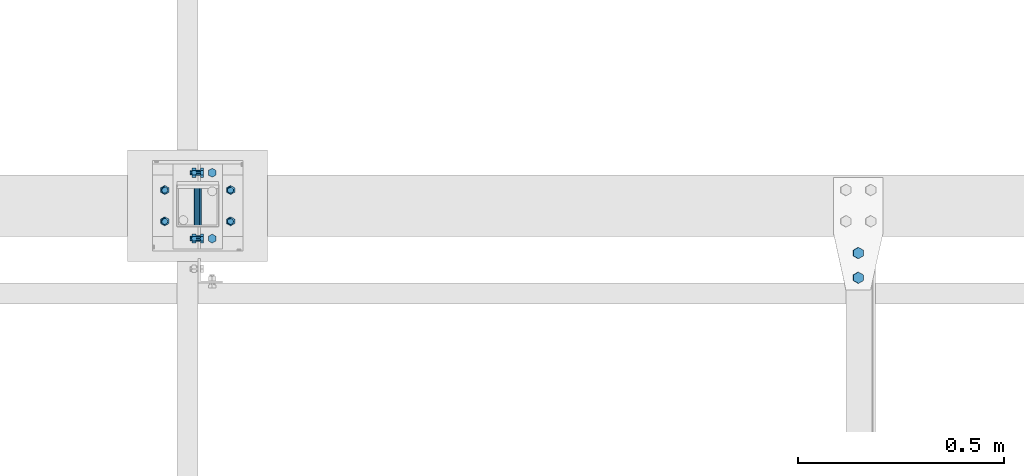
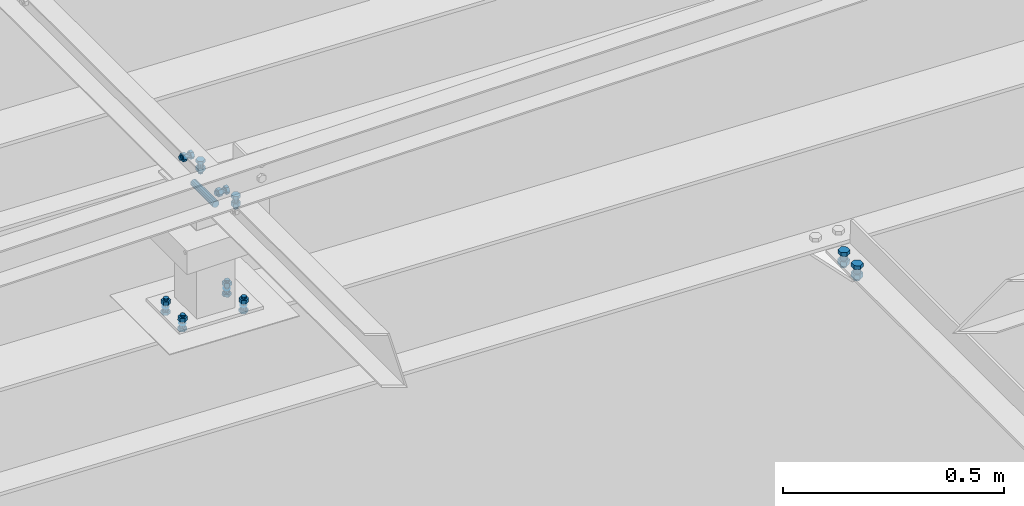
# One storey, part 213 of 3134: 6 mechanical fasteners, 4 elements without a shape of their own.
"""IFC2X3 building model written with IfcOpenShell, lengths in millimetres."""

from ifc_helpers import new_model, si_unit, frame, origin_with_axes, place, context, subcontext, project, spatial, faceted_brep, source, transform, mapped, material, type_object, element, aggregate, save


model = new_model("IFC2X3")

# Units and contexts
model_context = context("Model", 3, precision=1e-05, world=origin_with_axes())
body_context = subcontext(model_context, "Body", "Model", "MODEL_VIEW")
ifc_project = project(units=[si_unit("LENGTHUNIT", "METRE", prefix="MILLI"), si_unit("AREAUNIT", "SQUARE_METRE"), si_unit("VOLUMEUNIT", "CUBIC_METRE"), si_unit("MASSUNIT", "GRAM", prefix="KILO"), si_unit("TIMEUNIT", "SECOND"), si_unit("PLANEANGLEUNIT", "RADIAN"), si_unit("SOLIDANGLEUNIT", "STERADIAN"), si_unit("THERMODYNAMICTEMPERATUREUNIT", "DEGREE_CELSIUS"), si_unit("LUMINOUSINTENSITYUNIT", "LUMEN")], contexts=[model_context])

# Site, building, storey
site_placement = place(None, origin_with_axes())
site = spatial("IfcSite", under=ifc_project, at=site_placement, CompositionType="ELEMENT")
building_placement = place(site_placement, origin_with_axes())
building = spatial("IfcBuilding", under=site, at=building_placement, Name="Undefined", CompositionType="ELEMENT")
storey_placement = place(building_placement, origin_with_axes())
storey = spatial("IfcBuildingStorey", under=building, at=storey_placement, Name="Undefined", CompositionType="ELEMENT", Elevation=0.0)

# Assembly, mechanical fastener
assembly_1_placement = place(storey_placement, origin_with_axes())
assembly_1 = element("IfcElementAssembly", 1, at=assembly_1_placement, inside=storey, AssemblyPlace="NOTDEFINED", PredefinedType="RIGID_FRAME")
ifc_material = material(Name="8.8")
mechanical_fastener_type = type_object("IfcMechanicalFastenerType", Name="Bolt assembly")
shared_shape_1 = source(origin_with_axes(), body_context, "Body", "Brep", [
    faceted_brep([(10.9696551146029, -14.0, 0.0), (5.48482755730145, -14.0, 9.5), (-5.48482755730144, -14.0, 9.5), (-10.9696551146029, -14.0, 1.34339530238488e-15), (-5.48482755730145, -14.0, -9.5), (5.48482755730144, -14.0, -9.50000000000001), (5.48482755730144, -6.0, -9.50000000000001), (-5.48482755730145, -6.0, -9.5), (-10.9696551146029, -6.0, 1.34339530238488e-15), (-5.48482755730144, -6.0, 9.5), (5.48482755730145, -6.0, 9.5), (10.9696551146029, -6.0, 0.0), (6.0, -6.0, 0.0), (5.19615242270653, -6.0, 3.00000000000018), (2.99999999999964, -6.0, 5.19615242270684), (-6.21801588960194e-13, -6.0, 6.0), (-3.00000000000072, -6.0, 5.19615242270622), (-5.19615242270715, -6.0, 2.9999999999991), (-6.0, -6.0, -1.24360317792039e-12), (-5.19615242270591, -6.0, -3.00000000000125), (-2.99999999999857, -6.0, -5.19615242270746), (1.85874342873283e-12, -6.0, -6.0), (3.00000000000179, -6.0, -5.1961524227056), (5.19615242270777, -6.0, -2.99999999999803), (5.19615242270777, 24.0, -2.99999999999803), (3.00000000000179, 24.0, -5.1961524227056), (1.85874342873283e-12, 24.0, -6.0), (-2.99999999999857, 24.0, -5.19615242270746), (-5.19615242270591, 24.0, -3.00000000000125), (-6.0, 24.0, -1.24360317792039e-12), (-5.19615242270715, 24.0, 2.9999999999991), (-3.00000000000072, 24.0, 5.19615242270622), (-6.21801588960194e-13, 24.0, 6.0), (2.99999999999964, 24.0, 5.19615242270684), (5.19615242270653, 24.0, 3.00000000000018), (6.0, 24.0, 0.0), (10.9696551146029, 6.00000000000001, 0.0), (5.48482755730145, 6.00000000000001, 9.5), (-5.48482755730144, 6.00000000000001, 9.5), (-10.9696551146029, 6.00000000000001, 1.34339530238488e-15), (-5.48482755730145, 6.00000000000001, -9.5), (5.48482755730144, 6.00000000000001, -9.50000000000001), (5.48482755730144, 16.0, -9.50000000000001), (-5.48482755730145, 16.0, -9.5), (-10.9696551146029, 16.0, 1.34339530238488e-15), (-5.48482755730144, 16.0, 9.5), (5.48482755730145, 16.0, 9.5), (10.9696551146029, 16.0, 0.0)], [[[0, 1, 2, 3, 4, 5]], [[6, 7, 8, 9, 10, 11]], [[0, 11, 10, 1]], [[1, 10, 9, 2]], [[2, 9, 8, 3]], [[3, 8, 7, 4]], [[4, 7, 6, 5]], [[5, 6, 11, 0]], [[12, 13, 14, 15, 16, 17, 18, 19, 20, 21, 22, 23]], [[24, 25, 26, 27, 28, 29, 30, 31, 32, 33, 34, 35]], [[12, 35, 34, 13]], [[13, 34, 33, 14]], [[14, 33, 32, 15]], [[15, 32, 31, 16]], [[16, 31, 30, 17]], [[17, 30, 29, 18]], [[18, 29, 28, 19]], [[19, 28, 27, 20]], [[20, 27, 26, 21]], [[21, 26, 25, 22]], [[22, 25, 24, 23]], [[23, 24, 35, 12]], [[36, 37, 38, 39, 40, 41]], [[42, 43, 44, 45, 46, 47]], [[36, 47, 46, 37]], [[37, 46, 45, 38]], [[38, 45, 44, 39]], [[39, 44, 43, 40]], [[40, 43, 42, 41]], [[41, 42, 47, 36]]]),
    faceted_brep([(7.0, -5.9, 0.0), (6.06217782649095, -5.9, 3.50000000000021), (3.49999999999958, -5.9, 6.06217782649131), (-7.25435187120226e-13, -5.9, 7.0), (-3.50000000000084, -5.9, 6.06217782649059), (-6.06217782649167, -5.9, 3.49999999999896), (-7.0, -5.9, -1.45087037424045e-12), (-6.06217782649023, -5.9, -3.50000000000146), (-3.49999999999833, -5.9, -6.06217782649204), (2.1685340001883e-12, -5.9, -7.0), (3.50000000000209, -5.9, -6.06217782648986), (6.0621778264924, -5.9, -3.4999999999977), (6.0621778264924, 0.0999999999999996, -3.4999999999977), (3.50000000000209, 0.0999999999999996, -6.06217782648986), (2.1685340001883e-12, 0.0999999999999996, -7.0), (-3.49999999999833, 0.0999999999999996, -6.06217782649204), (-6.06217782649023, 0.0999999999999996, -3.50000000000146), (-7.0, 0.0999999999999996, -1.45087037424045e-12), (-6.06217782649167, 0.0999999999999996, 3.49999999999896), (-3.50000000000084, 0.0999999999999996, 6.06217782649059), (-7.25435187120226e-13, 0.0999999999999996, 7.0), (3.49999999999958, 0.0999999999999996, 6.06217782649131), (6.06217782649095, 0.0999999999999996, 3.50000000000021), (7.0, 0.0999999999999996, 0.0), (7.0, -0.1, 0.0), (6.06217782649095, -0.1, 3.50000000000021), (3.49999999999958, -0.1, 6.06217782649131), (-7.25435187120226e-13, -0.1, 7.0), (-3.50000000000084, -0.1, 6.06217782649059), (-6.06217782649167, -0.1, 3.49999999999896), (-7.0, -0.1, -1.45087037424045e-12), (-6.06217782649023, -0.1, -3.50000000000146), (-3.49999999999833, -0.1, -6.06217782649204), (2.1685340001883e-12, -0.1, -7.0), (3.50000000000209, -0.1, -6.06217782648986), (6.0621778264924, -0.1, -3.4999999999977), (6.0621778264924, 6.00000000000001, -3.4999999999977), (3.50000000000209, 6.00000000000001, -6.06217782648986), (2.1685340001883e-12, 6.00000000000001, -7.0), (-3.49999999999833, 6.00000000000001, -6.06217782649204), (-6.06217782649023, 6.00000000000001, -3.50000000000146), (-7.0, 6.00000000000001, -1.45087037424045e-12), (-6.06217782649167, 6.00000000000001, 3.49999999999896), (-3.50000000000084, 6.00000000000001, 6.06217782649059), (-7.25435187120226e-13, 6.00000000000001, 7.0), (3.49999999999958, 6.00000000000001, 6.06217782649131), (6.06217782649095, 6.00000000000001, 3.50000000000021), (7.0, 6.00000000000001, 0.0)], [[[0, 1, 2, 3, 4, 5, 6, 7, 8, 9, 10, 11]], [[12, 13, 14, 15, 16, 17, 18, 19, 20, 21, 22, 23]], [[0, 23, 22, 1]], [[1, 22, 21, 2]], [[2, 21, 20, 3]], [[3, 20, 19, 4]], [[4, 19, 18, 5]], [[5, 18, 17, 6]], [[6, 17, 16, 7]], [[7, 16, 15, 8]], [[8, 15, 14, 9]], [[9, 14, 13, 10]], [[10, 13, 12, 11]], [[11, 12, 23, 0]], [[24, 25, 26, 27, 28, 29, 30, 31, 32, 33, 34, 35]], [[36, 37, 38, 39, 40, 41, 42, 43, 44, 45, 46, 47]], [[24, 47, 46, 25]], [[25, 46, 45, 26]], [[26, 45, 44, 27]], [[27, 44, 43, 28]], [[28, 43, 42, 29]], [[29, 42, 41, 30]], [[30, 41, 40, 31]], [[31, 40, 39, 32]], [[32, 39, 38, 33]], [[33, 38, 37, 34]], [[34, 37, 36, 35]], [[35, 36, 47, 24]]]),
])
mechanical_fastener_1_placement = place(assembly_1_placement, frame((3078.33, 48445.0, 4265.0), z_axis=(-1.0, 0.0, 0.0), x_axis=(0.0, 1.0, 0.0)))
mechanical_fastener_1 = element("IfcMechanicalFastener", 2, at=mechanical_fastener_1_placement, type_object=mechanical_fastener_type, material=ifc_material, Name="Bolt assembly", NominalDiameter=12.0, NominalLength=30.0, context=body_context, shape_type="MappedRepresentation", body=[
    mapped(shared_shape_1, transform((0.0, 0.0, 0.0))),
    mapped(shared_shape_1, transform((160.0, 0.0, 0.0))),
])

assembly_2_placement = place(storey_placement, origin_with_axes())
assembly_2 = element("IfcElementAssembly", 3, at=assembly_2_placement, inside=storey, AssemblyPlace="NOTDEFINED", PredefinedType="RIGID_FRAME")
shared_shape_2 = source(origin_with_axes(), body_context, "Body", "Brep", [
    faceted_brep([(10.9696551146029, -14.0, 0.0), (5.48482755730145, -14.0, 9.5), (-5.48482755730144, -14.0, 9.5), (-10.9696551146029, -14.0, 1.34339530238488e-15), (-5.48482755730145, -14.0, -9.5), (5.48482755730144, -14.0, -9.50000000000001), (5.48482755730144, -6.0, -9.50000000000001), (-5.48482755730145, -6.0, -9.5), (-10.9696551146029, -6.0, 1.34339530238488e-15), (-5.48482755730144, -6.0, 9.5), (5.48482755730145, -6.0, 9.5), (10.9696551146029, -6.0, 0.0), (6.0, -6.0, 0.0), (5.19615242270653, -6.0, 3.00000000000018), (2.99999999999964, -6.0, 5.19615242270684), (-6.21801588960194e-13, -6.0, 6.0), (-3.00000000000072, -6.0, 5.19615242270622), (-5.19615242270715, -6.0, 2.9999999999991), (-6.0, -6.0, -1.24360317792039e-12), (-5.19615242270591, -6.0, -3.00000000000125), (-2.99999999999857, -6.0, -5.19615242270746), (1.85874342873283e-12, -6.0, -6.0), (3.00000000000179, -6.0, -5.1961524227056), (5.19615242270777, -6.0, -2.99999999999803), (5.19615242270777, 19.0, -2.99999999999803), (3.00000000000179, 19.0, -5.1961524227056), (1.85874342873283e-12, 19.0, -6.0), (-2.99999999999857, 19.0, -5.19615242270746), (-5.19615242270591, 19.0, -3.00000000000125), (-6.0, 19.0, -1.24360317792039e-12), (-5.19615242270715, 19.0, 2.9999999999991), (-3.00000000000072, 19.0, 5.19615242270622), (-6.21801588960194e-13, 19.0, 6.0), (2.99999999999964, 19.0, 5.19615242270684), (5.19615242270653, 19.0, 3.00000000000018), (6.0, 19.0, 0.0), (10.9696551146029, 4.00000000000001, 0.0), (5.48482755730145, 4.00000000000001, 9.5), (-5.48482755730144, 4.00000000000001, 9.5), (-10.9696551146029, 4.00000000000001, 1.34339530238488e-15), (-5.48482755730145, 4.00000000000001, -9.5), (5.48482755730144, 4.00000000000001, -9.50000000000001), (5.48482755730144, 14.0, -9.50000000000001), (-5.48482755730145, 14.0, -9.5), (-10.9696551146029, 14.0, 1.34339530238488e-15), (-5.48482755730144, 14.0, 9.5), (5.48482755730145, 14.0, 9.5), (10.9696551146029, 14.0, 0.0)], [[[0, 1, 2, 3, 4, 5]], [[6, 7, 8, 9, 10, 11]], [[0, 11, 10, 1]], [[1, 10, 9, 2]], [[2, 9, 8, 3]], [[3, 8, 7, 4]], [[4, 7, 6, 5]], [[5, 6, 11, 0]], [[12, 13, 14, 15, 16, 17, 18, 19, 20, 21, 22, 23]], [[24, 25, 26, 27, 28, 29, 30, 31, 32, 33, 34, 35]], [[12, 35, 34, 13]], [[13, 34, 33, 14]], [[14, 33, 32, 15]], [[15, 32, 31, 16]], [[16, 31, 30, 17]], [[17, 30, 29, 18]], [[18, 29, 28, 19]], [[19, 28, 27, 20]], [[20, 27, 26, 21]], [[21, 26, 25, 22]], [[22, 25, 24, 23]], [[23, 24, 35, 12]], [[36, 37, 38, 39, 40, 41]], [[42, 43, 44, 45, 46, 47]], [[36, 47, 46, 37]], [[37, 46, 45, 38]], [[38, 45, 44, 39]], [[39, 44, 43, 40]], [[40, 43, 42, 41]], [[41, 42, 47, 36]]]),
    faceted_brep([(7.0, -0.1, 0.0), (6.06217782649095, -0.1, 3.50000000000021), (3.49999999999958, -0.1, 6.06217782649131), (-7.25435187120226e-13, -0.1, 7.0), (-3.50000000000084, -0.1, 6.06217782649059), (-6.06217782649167, -0.1, 3.49999999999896), (-7.0, -0.1, -1.45087037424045e-12), (-6.06217782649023, -0.1, -3.50000000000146), (-3.49999999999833, -0.1, -6.06217782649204), (2.1685340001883e-12, -0.1, -7.0), (3.50000000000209, -0.1, -6.06217782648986), (6.0621778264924, -0.1, -3.4999999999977), (6.0621778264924, 4.00000000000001, -3.4999999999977), (3.50000000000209, 4.00000000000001, -6.06217782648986), (2.1685340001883e-12, 4.00000000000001, -7.0), (-3.49999999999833, 4.00000000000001, -6.06217782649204), (-6.06217782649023, 4.00000000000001, -3.50000000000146), (-7.0, 4.00000000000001, -1.45087037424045e-12), (-6.06217782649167, 4.00000000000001, 3.49999999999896), (-3.50000000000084, 4.00000000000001, 6.06217782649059), (-7.25435187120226e-13, 4.00000000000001, 7.0), (3.49999999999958, 4.00000000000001, 6.06217782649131), (6.06217782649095, 4.00000000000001, 3.50000000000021), (7.0, 4.00000000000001, 0.0), (7.0, -5.9, 0.0), (6.06217782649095, -5.9, 3.50000000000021), (3.49999999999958, -5.9, 6.06217782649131), (-7.25435187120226e-13, -5.9, 7.0), (-3.50000000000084, -5.9, 6.06217782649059), (-6.06217782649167, -5.9, 3.49999999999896), (-7.0, -5.9, -1.45087037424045e-12), (-6.06217782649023, -5.9, -3.50000000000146), (-3.49999999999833, -5.9, -6.06217782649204), (2.1685340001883e-12, -5.9, -7.0), (3.50000000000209, -5.9, -6.06217782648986), (6.0621778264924, -5.9, -3.4999999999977), (6.0621778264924, 0.0999999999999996, -3.4999999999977), (3.50000000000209, 0.0999999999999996, -6.06217782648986), (2.1685340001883e-12, 0.0999999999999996, -7.0), (-3.49999999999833, 0.0999999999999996, -6.06217782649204), (-6.06217782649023, 0.0999999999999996, -3.50000000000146), (-7.0, 0.0999999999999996, -1.45087037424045e-12), (-6.06217782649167, 0.0999999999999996, 3.49999999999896), (-3.50000000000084, 0.0999999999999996, 6.06217782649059), (-7.25435187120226e-13, 0.0999999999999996, 7.0), (3.49999999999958, 0.0999999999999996, 6.06217782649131), (6.06217782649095, 0.0999999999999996, 3.50000000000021), (7.0, 0.0999999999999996, 0.0)], [[[0, 1, 2, 3, 4, 5, 6, 7, 8, 9, 10, 11]], [[12, 13, 14, 15, 16, 17, 18, 19, 20, 21, 22, 23]], [[0, 23, 22, 1]], [[1, 22, 21, 2]], [[2, 21, 20, 3]], [[3, 20, 19, 4]], [[4, 19, 18, 5]], [[5, 18, 17, 6]], [[6, 17, 16, 7]], [[7, 16, 15, 8]], [[8, 15, 14, 9]], [[9, 14, 13, 10]], [[10, 13, 12, 11]], [[11, 12, 23, 0]], [[24, 25, 26, 27, 28, 29, 30, 31, 32, 33, 34, 35]], [[36, 37, 38, 39, 40, 41, 42, 43, 44, 45, 46, 47]], [[24, 47, 46, 25]], [[25, 46, 45, 26]], [[26, 45, 44, 27]], [[27, 44, 43, 28]], [[28, 43, 42, 29]], [[29, 42, 41, 30]], [[30, 41, 40, 31]], [[31, 40, 39, 32]], [[32, 39, 38, 33]], [[33, 38, 37, 34]], [[34, 37, 36, 35]], [[35, 36, 47, 24]]]),
])
mechanical_fastener_2_placement = place(assembly_2_placement, frame((3043.33, 48445.0, 4300.0), z_axis=(0.0, 0.0, 1.0), x_axis=(0.0, 1.0, 0.0)))
mechanical_fastener_2 = element("IfcMechanicalFastener", 4, at=mechanical_fastener_2_placement, type_object=mechanical_fastener_type, material=ifc_material, Name="Bolt assembly", NominalDiameter=12.0, NominalLength=25.0, context=body_context, shape_type="MappedRepresentation", body=[
    mapped(shared_shape_2, transform((0.0, 0.0, 0.0))),
    mapped(shared_shape_2, transform((160.0, 0.0, 0.0))),
])
aggregate(assembly_2, [mechanical_fastener_2])

assembly_3_placement = place(storey_placement, origin_with_axes())
assembly_3 = element("IfcElementAssembly", 5, at=assembly_3_placement, inside=storey, AssemblyPlace="NOTDEFINED", PredefinedType="RIGID_FRAME")
shared_shape_3 = source(origin_with_axes(), body_context, "Body", "Brep", [
    faceted_brep([(13.856406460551, -21.0000017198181, 0.0), (6.92820323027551, -21.0000017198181, 12.0), (-6.92820323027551, -21.0000017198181, 12.0), (-13.856406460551, -21.0000017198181, 1.69692038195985e-15), (-6.92820323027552, -21.0000017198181, -12.0), (6.9282032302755, -21.0000017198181, -12.0), (6.9282032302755, -11.0000017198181, -12.0), (-6.92820323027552, -11.0000017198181, -12.0), (-13.856406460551, -11.0000017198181, 1.69692038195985e-15), (-6.92820323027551, -11.0000017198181, 12.0), (6.92820323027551, -11.0000017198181, 12.0), (13.856406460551, -11.0000017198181, 0.0), (8.0, -11.0000017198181, 0.0), (6.92820323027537, -11.0000017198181, 4.00000000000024), (3.99999999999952, -11.0000017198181, 6.92820323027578), (-8.29068785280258e-13, -11.0000017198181, 8.0), (-4.00000000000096, -11.0000017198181, 6.92820323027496), (-6.9282032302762, -11.0000017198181, 3.99999999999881), (-8.0, -11.0000017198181, -1.65813757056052e-12), (-6.92820323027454, -11.0000017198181, -4.00000000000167), (-3.99999999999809, -11.0000017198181, -6.92820323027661), (2.47832457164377e-12, -11.0000017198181, -8.0), (4.00000000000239, -11.0000017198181, -6.92820323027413), (6.92820323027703, -11.0000017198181, -3.99999999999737), (6.92820323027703, 23.9999999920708, -3.99999999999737), (4.00000000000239, 23.9999999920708, -6.92820323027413), (2.47832457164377e-12, 23.9999999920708, -8.0), (-3.99999999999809, 23.9999999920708, -6.92820323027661), (-6.92820323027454, 23.9999999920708, -4.00000000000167), (-8.0, 23.9999999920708, -1.65813757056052e-12), (-6.9282032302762, 23.9999999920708, 3.99999999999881), (-4.00000000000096, 23.9999999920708, 6.92820323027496), (-8.29068785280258e-13, 23.9999999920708, 8.0), (3.99999999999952, 23.9999999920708, 6.92820323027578), (6.92820323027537, 23.9999999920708, 4.00000000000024), (8.0, 23.9999999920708, 0.0), (13.856406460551, 3.99999999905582, 0.0), (6.92820323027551, 3.99999999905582, 12.0), (-6.92820323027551, 3.99999999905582, 12.0), (-13.856406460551, 3.99999999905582, 1.69692038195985e-15), (-6.92820323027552, 3.99999999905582, -12.0), (6.9282032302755, 3.99999999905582, -12.0), (6.9282032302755, 16.9999999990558, -12.0), (-6.92820323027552, 16.9999999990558, -12.0), (-13.856406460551, 16.9999999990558, 1.69692038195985e-15), (-6.92820323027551, 16.9999999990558, 12.0), (6.92820323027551, 16.9999999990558, 12.0), (13.856406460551, 16.9999999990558, 0.0)], [[[0, 1, 2, 3, 4, 5]], [[6, 7, 8, 9, 10, 11]], [[0, 11, 10, 1]], [[1, 10, 9, 2]], [[2, 9, 8, 3]], [[3, 8, 7, 4]], [[4, 7, 6, 5]], [[5, 6, 11, 0]], [[12, 13, 14, 15, 16, 17, 18, 19, 20, 21, 22, 23]], [[24, 25, 26, 27, 28, 29, 30, 31, 32, 33, 34, 35]], [[12, 35, 34, 13]], [[13, 34, 33, 14]], [[14, 33, 32, 15]], [[15, 32, 31, 16]], [[16, 31, 30, 17]], [[17, 30, 29, 18]], [[18, 29, 28, 19]], [[19, 28, 27, 20]], [[20, 27, 26, 21]], [[21, 26, 25, 22]], [[22, 25, 24, 23]], [[23, 24, 35, 12]], [[36, 37, 38, 39, 40, 41]], [[42, 43, 44, 45, 46, 47]], [[36, 47, 46, 37]], [[37, 46, 45, 38]], [[38, 45, 44, 39]], [[39, 44, 43, 40]], [[40, 43, 42, 41]], [[41, 42, 47, 36]]]),
    faceted_brep([(9.0, -4.10000000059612, 0.0), (7.79422863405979, -4.10000000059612, 4.50000000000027), (4.49999999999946, -4.10000000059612, 7.79422863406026), (-9.3270238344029e-13, -4.10000000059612, 9.0), (-4.50000000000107, -4.10000000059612, 7.79422863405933), (-7.79422863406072, -4.10000000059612, 4.49999999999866), (-9.0, -4.10000000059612, -1.86540476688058e-12), (-7.79422863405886, -4.10000000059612, -4.50000000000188), (-4.49999999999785, -4.10000000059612, -7.79422863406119), (2.78811514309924e-12, -4.10000000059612, -9.0), (4.50000000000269, -4.10000000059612, -7.7942286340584), (7.79422863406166, -4.10000000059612, -4.49999999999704), (7.79422863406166, 4.00000375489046, -4.49999999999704), (4.50000000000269, 4.00000375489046, -7.7942286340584), (2.78811514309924e-12, 4.00000375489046, -9.0), (-4.49999999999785, 4.00000375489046, -7.79422863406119), (-7.79422863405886, 4.00000375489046, -4.50000000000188), (-9.0, 4.00000375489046, -1.86540476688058e-12), (-7.79422863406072, 4.00000375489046, 4.49999999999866), (-4.50000000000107, 4.00000375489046, 7.79422863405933), (-9.3270238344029e-13, 4.00000375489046, 9.0), (4.49999999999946, 4.00000375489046, 7.79422863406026), (7.79422863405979, 4.00000375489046, 4.50000000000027), (9.0, 4.00000375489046, 0.0), (9.0, -10.9000017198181, 0.0), (7.79422863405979, -10.9000017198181, 4.50000000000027), (4.49999999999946, -10.9000017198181, 7.79422863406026), (-9.3270238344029e-13, -10.9000017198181, 9.0), (-4.50000000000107, -10.9000017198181, 7.79422863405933), (-7.79422863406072, -10.9000017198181, 4.49999999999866), (-9.0, -10.9000017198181, -1.86540476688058e-12), (-7.79422863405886, -10.9000017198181, -4.50000000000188), (-4.49999999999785, -10.9000017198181, -7.79422863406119), (2.78811514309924e-12, -10.9000017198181, -9.0), (4.50000000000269, -10.9000017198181, -7.7942286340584), (7.79422863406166, -10.9000017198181, -4.49999999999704), (7.79422863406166, -3.9, -4.49999999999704), (4.50000000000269, -3.9, -7.7942286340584), (2.78811514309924e-12, -3.9, -9.0), (-4.49999999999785, -3.9, -7.79422863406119), (-7.79422863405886, -3.9, -4.50000000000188), (-9.0, -3.9, -1.86540476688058e-12), (-7.79422863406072, -3.9, 4.49999999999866), (-4.50000000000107, -3.9, 7.79422863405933), (-9.3270238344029e-13, -3.9, 9.0), (4.49999999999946, -3.9, 7.79422863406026), (7.79422863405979, -3.9, 4.50000000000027), (9.0, -3.9, 0.0)], [[[0, 1, 2, 3, 4, 5, 6, 7, 8, 9, 10, 11]], [[12, 13, 14, 15, 16, 17, 18, 19, 20, 21, 22, 23]], [[0, 23, 22, 1]], [[1, 22, 21, 2]], [[2, 21, 20, 3]], [[3, 20, 19, 4]], [[4, 19, 18, 5]], [[5, 18, 17, 6]], [[6, 17, 16, 7]], [[7, 16, 15, 8]], [[8, 15, 14, 9]], [[9, 14, 13, 10]], [[10, 13, 12, 11]], [[11, 12, 23, 0]], [[24, 25, 26, 27, 28, 29, 30, 31, 32, 33, 34, 35]], [[36, 37, 38, 39, 40, 41, 42, 43, 44, 45, 46, 47]], [[24, 47, 46, 25]], [[25, 46, 45, 26]], [[26, 45, 44, 27]], [[27, 44, 43, 28]], [[28, 43, 42, 29]], [[29, 42, 41, 30]], [[30, 41, 40, 31]], [[31, 40, 39, 32]], [[32, 39, 38, 33]], [[33, 38, 37, 34]], [[34, 37, 36, 35]], [[35, 36, 47, 24]]]),
])
mechanical_fastener_3_placement = place(assembly_3_placement, frame((4647.50483525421, 48350.0, 3576.15051901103), z_axis=(-0.999388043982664, 0.0, 0.0349791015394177), x_axis=(0.0, 1.0, 0.0)))
mechanical_fastener_3 = element("IfcMechanicalFastener", 6, at=mechanical_fastener_3_placement, type_object=mechanical_fastener_type, material=ifc_material, Name="Bolt assembly", NominalDiameter=16.0, NominalLength=35.0, context=body_context, shape_type="MappedRepresentation", body=[
    mapped(shared_shape_3, transform((0.0, 0.0, 0.0))),
    mapped(shared_shape_3, transform((59.9999999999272, 0.0, 5.40239852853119e-10))),
])
aggregate(assembly_3, [mechanical_fastener_3])

# Mechanical fastener
shared_shape_4 = source(origin_with_axes(), body_context, "Body", "Brep", [
    faceted_brep([(10.9696551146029, -4.1972538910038, 0.0), (5.48482755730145, -4.1972538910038, 9.5), (-5.48482755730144, -4.1972538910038, 9.5), (-10.9696551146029, -4.1972538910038, 1.34339530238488e-15), (-5.48482755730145, -4.1972538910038, -9.5), (5.48482755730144, -4.1972538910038, -9.50000000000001), (5.48482755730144, 3.8027461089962, -9.50000000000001), (-5.48482755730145, 3.8027461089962, -9.5), (-10.9696551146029, 3.8027461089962, 1.34339530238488e-15), (-5.48482755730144, 3.8027461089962, 9.5), (5.48482755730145, 3.8027461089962, 9.5), (10.9696551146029, 3.8027461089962, 0.0), (6.0, 3.8027461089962, 0.0), (5.19615242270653, 3.8027461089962, 3.00000000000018), (2.99999999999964, 3.8027461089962, 5.19615242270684), (-6.21801588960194e-13, 3.8027461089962, 6.0), (-3.00000000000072, 3.8027461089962, 5.19615242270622), (-5.19615242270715, 3.8027461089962, 2.9999999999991), (-6.0, 3.8027461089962, -1.24360317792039e-12), (-5.19615242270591, 3.8027461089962, -3.00000000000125), (-2.99999999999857, 3.8027461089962, -5.19615242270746), (1.85874342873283e-12, 3.8027461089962, -6.0), (3.00000000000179, 3.8027461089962, -5.1961524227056), (5.19615242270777, 3.8027461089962, -2.99999999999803), (5.19615242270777, 38.8027461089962, -2.99999999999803), (3.00000000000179, 38.8027461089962, -5.1961524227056), (1.85874342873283e-12, 38.8027461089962, -6.0), (-2.99999999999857, 38.8027461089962, -5.19615242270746), (-5.19615242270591, 38.8027461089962, -3.00000000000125), (-6.0, 38.8027461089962, -1.24360317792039e-12), (-5.19615242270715, 38.8027461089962, 2.9999999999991), (-3.00000000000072, 38.8027461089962, 5.19615242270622), (-6.21801588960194e-13, 38.8027461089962, 6.0), (2.99999999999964, 38.8027461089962, 5.19615242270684), (5.19615242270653, 38.8027461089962, 3.00000000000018), (6.0, 38.8027461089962, 0.0), (10.9696551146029, 23.0139082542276, 0.0), (5.48482755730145, 23.0139082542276, 9.5), (-5.48482755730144, 23.0139082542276, 9.5), (-10.9696551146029, 23.0139082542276, 1.34339530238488e-15), (-5.48482755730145, 23.0139082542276, -9.5), (5.48482755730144, 23.0139082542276, -9.50000000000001), (5.48482755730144, 33.0139082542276, -9.50000000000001), (-5.48482755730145, 33.0139082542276, -9.5), (-10.9696551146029, 33.0139082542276, 1.34339530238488e-15), (-5.48482755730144, 33.0139082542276, 9.5), (5.48482755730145, 33.0139082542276, 9.5), (10.9696551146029, 33.0139082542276, 0.0)], [[[0, 1, 2, 3, 4, 5]], [[6, 7, 8, 9, 10, 11]], [[0, 11, 10, 1]], [[1, 10, 9, 2]], [[2, 9, 8, 3]], [[3, 8, 7, 4]], [[4, 7, 6, 5]], [[5, 6, 11, 0]], [[12, 13, 14, 15, 16, 17, 18, 19, 20, 21, 22, 23]], [[24, 25, 26, 27, 28, 29, 30, 31, 32, 33, 34, 35]], [[12, 35, 34, 13]], [[13, 34, 33, 14]], [[14, 33, 32, 15]], [[15, 32, 31, 16]], [[16, 31, 30, 17]], [[17, 30, 29, 18]], [[18, 29, 28, 19]], [[19, 28, 27, 20]], [[20, 27, 26, 21]], [[21, 26, 25, 22]], [[22, 25, 24, 23]], [[23, 24, 35, 12]], [[36, 37, 38, 39, 40, 41]], [[42, 43, 44, 45, 46, 47]], [[36, 47, 46, 37]], [[37, 46, 45, 38]], [[38, 45, 44, 39]], [[39, 44, 43, 40]], [[40, 43, 42, 41]], [[41, 42, 47, 36]]]),
    faceted_brep([(7.0, 3.9027461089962, 0.0), (6.06217782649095, 3.9027461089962, 3.50000000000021), (3.49999999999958, 3.9027461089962, 6.06217782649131), (-7.25435187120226e-13, 3.9027461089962, 7.0), (-3.50000000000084, 3.9027461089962, 6.06217782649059), (-6.06217782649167, 3.9027461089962, 3.49999999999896), (-7.0, 3.9027461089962, -1.45087037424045e-12), (-6.06217782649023, 3.9027461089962, -3.50000000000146), (-3.49999999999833, 3.9027461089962, -6.06217782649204), (2.1685340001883e-12, 3.9027461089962, -7.0), (3.50000000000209, 3.9027461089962, -6.06217782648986), (6.0621778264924, 3.9027461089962, -3.4999999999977), (6.0621778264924, 13.1027459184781, -3.4999999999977), (3.50000000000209, 13.1027459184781, -6.06217782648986), (2.1685340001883e-12, 13.1027459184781, -7.0), (-3.49999999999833, 13.1027459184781, -6.06217782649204), (-6.06217782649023, 13.1027459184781, -3.50000000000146), (-7.0, 13.1027459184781, -1.45087037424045e-12), (-6.06217782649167, 13.1027459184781, 3.49999999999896), (-3.50000000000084, 13.1027459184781, 6.06217782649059), (-7.25435187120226e-13, 13.1027459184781, 7.0), (3.49999999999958, 13.1027459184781, 6.06217782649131), (6.06217782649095, 13.1027459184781, 3.50000000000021), (7.0, 13.1027459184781, 0.0), (7.0, 14.9139082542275, 0.0), (6.06217782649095, 14.9139082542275, 3.50000000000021), (3.49999999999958, 14.9139082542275, 6.06217782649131), (-7.25435187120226e-13, 14.9139082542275, 7.0), (-3.50000000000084, 14.9139082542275, 6.06217782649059), (-6.06217782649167, 14.9139082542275, 3.49999999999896), (-7.0, 14.9139082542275, -1.45087037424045e-12), (-6.06217782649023, 14.9139082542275, -3.50000000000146), (-3.49999999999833, 14.9139082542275, -6.06217782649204), (2.1685340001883e-12, 14.9139082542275, -7.0), (3.50000000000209, 14.9139082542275, -6.06217782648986), (6.0621778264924, 14.9139082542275, -3.4999999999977), (6.0621778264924, 23.0139082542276, -3.4999999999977), (3.50000000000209, 23.0139082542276, -6.06217782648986), (2.1685340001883e-12, 23.0139082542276, -7.0), (-3.49999999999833, 23.0139082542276, -6.06217782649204), (-6.06217782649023, 23.0139082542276, -3.50000000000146), (-7.0, 23.0139082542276, -1.45087037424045e-12), (-6.06217782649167, 23.0139082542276, 3.49999999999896), (-3.50000000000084, 23.0139082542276, 6.06217782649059), (-7.25435187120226e-13, 23.0139082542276, 7.0), (3.49999999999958, 23.0139082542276, 6.06217782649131), (6.06217782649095, 23.0139082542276, 3.50000000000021), (7.0, 23.0139082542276, 0.0)], [[[0, 1, 2, 3, 4, 5, 6, 7, 8, 9, 10, 11]], [[12, 13, 14, 15, 16, 17, 18, 19, 20, 21, 22, 23]], [[0, 23, 22, 1]], [[1, 22, 21, 2]], [[2, 21, 20, 3]], [[3, 20, 19, 4]], [[4, 19, 18, 5]], [[5, 18, 17, 6]], [[6, 17, 16, 7]], [[7, 16, 15, 8]], [[8, 15, 14, 9]], [[9, 14, 13, 10]], [[10, 13, 12, 11]], [[11, 12, 23, 0]], [[24, 25, 26, 27, 28, 29, 30, 31, 32, 33, 34, 35]], [[36, 37, 38, 39, 40, 41, 42, 43, 44, 45, 46, 47]], [[24, 47, 46, 25]], [[25, 46, 45, 26]], [[26, 45, 44, 27]], [[27, 44, 43, 28]], [[28, 43, 42, 29]], [[29, 42, 41, 30]], [[30, 41, 40, 31]], [[31, 40, 39, 32]], [[32, 39, 38, 33]], [[33, 38, 37, 34]], [[34, 37, 36, 35]], [[35, 36, 47, 24]]]),
])
mechanical_fastener_4_placement = place(assembly_1_placement, frame((3042.52318655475, 48562.9999999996, 3920.50000668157), z_axis=(-0.999387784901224, 0.0, 0.0349865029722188), x_axis=(0.0, -1.0, 0.0)))
mechanical_fastener_4 = element("IfcMechanicalFastener", 7, at=mechanical_fastener_4_placement, type_object=mechanical_fastener_type, material=ifc_material, Name="Bolt assembly", NominalDiameter=12.0, NominalLength=35.0, context=body_context, shape_type="MappedRepresentation", body=[
    mapped(shared_shape_4, transform((0.0, -5.32963895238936e-10, -79.9999999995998))),
    mapped(shared_shape_4, transform((76.0, -5.32963895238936e-10, -79.9999999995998))),
    mapped(shared_shape_4, transform((0.0, 5.3114490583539e-10, 79.9999999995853))),
    mapped(shared_shape_4, transform((76.0, 5.3114490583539e-10, 79.9999999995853))),
])

# Assembly, mechanical fastener
assembly_4_placement = place(storey_placement, origin_with_axes())
assembly_4 = element("IfcElementAssembly", 8, at=assembly_4_placement, inside=storey, AssemblyPlace="NOTDEFINED", PredefinedType="RIGID_FRAME")
shared_shape_5 = source(origin_with_axes(), body_context, "Body", "Brep", [
    faceted_brep([(7.0, 13.0000253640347, 0.0), (6.06217782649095, 13.0000253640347, 3.50000000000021), (3.49999999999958, 13.0000253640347, 6.06217782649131), (-7.25435187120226e-13, 13.0000253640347, 7.0), (-3.50000000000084, 13.0000253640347, 6.06217782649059), (-6.06217782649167, 13.0000253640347, 3.49999999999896), (-7.0, 13.0000253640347, -1.45087037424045e-12), (-6.06217782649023, 13.0000253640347, -3.50000000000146), (-3.49999999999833, 13.0000253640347, -6.06217782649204), (2.1685340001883e-12, 13.0000253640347, -7.0), (3.50000000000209, 13.0000253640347, -6.06217782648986), (6.0621778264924, 13.0000253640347, -3.4999999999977), (6.0621778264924, 15.0999999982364, -3.4999999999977), (3.50000000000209, 15.0999999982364, -6.06217782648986), (2.1685340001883e-12, 15.0999999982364, -7.0), (-3.49999999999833, 15.0999999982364, -6.06217782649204), (-6.06217782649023, 15.0999999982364, -3.50000000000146), (-7.0, 15.0999999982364, -1.45087037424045e-12), (-6.06217782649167, 15.0999999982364, 3.49999999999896), (-3.50000000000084, 15.0999999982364, 6.06217782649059), (-7.25435187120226e-13, 15.0999999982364, 7.0), (3.49999999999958, 15.0999999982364, 6.06217782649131), (6.06217782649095, 15.0999999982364, 3.50000000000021), (7.0, 15.0999999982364, 0.0)], [[[0, 1, 2, 3, 4, 5, 6, 7, 8, 9, 10, 11]], [[12, 13, 14, 15, 16, 17, 18, 19, 20, 21, 22, 23]], [[0, 23, 22, 1]], [[1, 22, 21, 2]], [[2, 21, 20, 3]], [[3, 20, 19, 4]], [[4, 19, 18, 5]], [[5, 18, 17, 6]], [[6, 17, 16, 7]], [[7, 16, 15, 8]], [[8, 15, 14, 9]], [[9, 14, 13, 10]], [[10, 13, 12, 11]], [[11, 12, 23, 0]]]),
])
mechanical_fastener_5_placement = place(assembly_4_placement, frame((3042.52318655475, 48562.9999999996, 3920.50000668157), z_axis=(-0.999387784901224, 0.0, 0.0349865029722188), x_axis=(0.0, -1.0, 0.0)))
mechanical_fastener_5 = element("IfcMechanicalFastener", 9, at=mechanical_fastener_5_placement, type_object=mechanical_fastener_type, material=ifc_material, Name="Bolt assembly", NominalDiameter=12.0, NominalLength=2.0, context=body_context, shape_type="MappedRepresentation", body=[
    mapped(shared_shape_5, transform((0.0, -5.32963895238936e-10, -79.9999999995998))),
    mapped(shared_shape_5, transform((76.0, -5.32963895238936e-10, -79.9999999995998))),
    mapped(shared_shape_5, transform((0.0, 5.3114490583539e-10, 79.9999999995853))),
    mapped(shared_shape_5, transform((76.0, 5.3114490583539e-10, 79.9999999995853))),
])
aggregate(assembly_4, [mechanical_fastener_5])

# Mechanical fastener
shared_shape_6 = source(origin_with_axes(), body_context, "Body", "Brep", [
    faceted_brep([(9.0, -50.0, 0.0), (7.79422863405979, -50.0, 4.50000000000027), (4.49999999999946, -50.0, 7.79422863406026), (-9.3270238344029e-13, -50.0, 9.0), (-4.50000000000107, -50.0, 7.79422863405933), (-7.79422863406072, -50.0, 4.49999999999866), (-9.0, -50.0, -1.86540476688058e-12), (-7.79422863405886, -50.0, -4.50000000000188), (-4.49999999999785, -50.0, -7.79422863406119), (2.78811514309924e-12, -50.0, -9.0), (4.50000000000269, -50.0, -7.7942286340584), (7.79422863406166, -50.0, -4.49999999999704), (7.79422863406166, 50.1, -4.49999999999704), (4.50000000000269, 50.1, -7.7942286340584), (2.78811514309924e-12, 50.1, -9.0), (-4.49999999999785, 50.1, -7.79422863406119), (-7.79422863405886, 50.1, -4.50000000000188), (-9.0, 50.1, -1.86540476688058e-12), (-7.79422863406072, 50.1, 4.49999999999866), (-4.50000000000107, 50.1, 7.79422863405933), (-9.3270238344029e-13, 50.1, 9.0), (4.49999999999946, 50.1, 7.79422863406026), (7.79422863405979, 50.1, 4.50000000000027), (9.0, 50.1, 0.0)], [[[0, 1, 2, 3, 4, 5, 6, 7, 8, 9, 10, 11]], [[12, 13, 14, 15, 16, 17, 18, 19, 20, 21, 22, 23]], [[0, 23, 22, 1]], [[1, 22, 21, 2]], [[2, 21, 20, 3]], [[3, 20, 19, 4]], [[4, 19, 18, 5]], [[5, 18, 17, 6]], [[6, 17, 16, 7]], [[7, 16, 15, 8]], [[8, 15, 14, 9]], [[9, 14, 13, 10]], [[10, 13, 12, 11]], [[11, 12, 23, 0]]]),
])
mechanical_fastener_6_placement = place(assembly_1_placement, frame((3043.33, 48525.0, 4245.0), z_axis=(-1.0, 0.0, 0.0), x_axis=(0.0, 0.0, 1.0)))
mechanical_fastener_6 = element("IfcMechanicalFastener", 10, at=mechanical_fastener_6_placement, type_object=mechanical_fastener_type, material=ifc_material, Name="Bolt assembly", NominalDiameter=16.0, NominalLength=100.0, context=body_context, shape_type="MappedRepresentation", body=[
    mapped(shared_shape_6, transform((0.0, 0.0, 0.0))),
])

aggregate(assembly_1, [mechanical_fastener_4, mechanical_fastener_1, mechanical_fastener_6])

save(model, "model.ifc")
